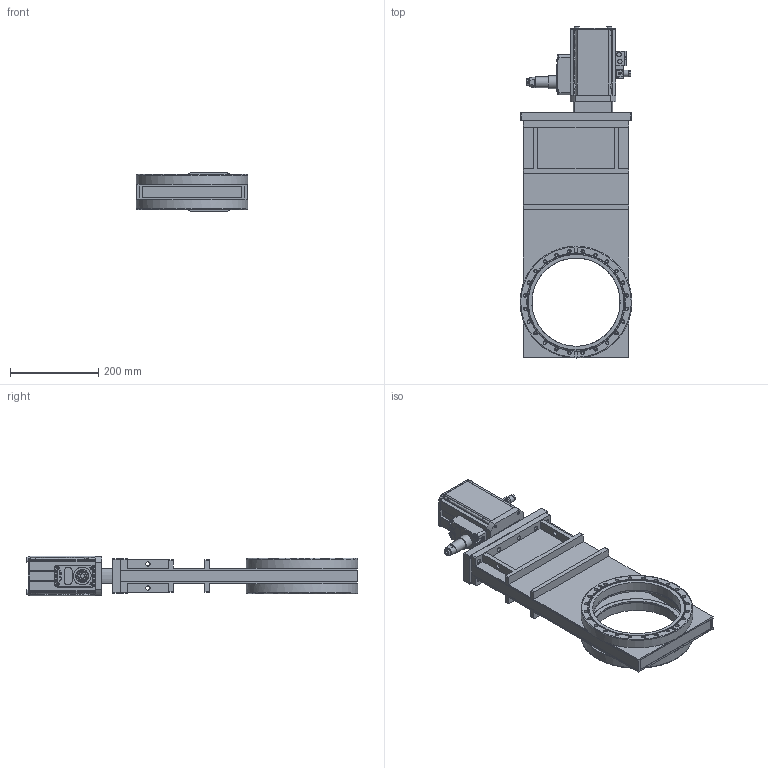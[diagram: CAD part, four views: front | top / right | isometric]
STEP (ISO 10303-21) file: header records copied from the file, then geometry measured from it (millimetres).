
FILE_DESCRIPTION((''),'2;1');
FILE_NAME('O:\MT\MT\Systeme\Cad\Datenexporte\www_vat_ch\207195.stp','2005-06-24T14:33:25',('User'),('SDRC'),'I-DEAS Master Series 9','UNIX','Yes');
FILE_SCHEMA(('CONFIG_CONTROL_DESIGN'));
Length unit declared in the file: millimetre
Assembly tree (31 placements, depth 0):
Bounding box: 253.2 x 752.7 x 90 mm (x, y, z)
Volume: 3398034.1 mm3; surface area: 963673.5 mm2
Topology: 28 solids, 28 shells, 1362 faces, 3332 edges, 2253 vertices
Faces by surface type: bspline 1362
Entity records: 40358 total; most frequent: CARTESIAN_POINT 21686, ORIENTED_EDGE 5160, EDGE_CURVE 2580, VERTEX_POINT 1683, EDGE_LOOP 1441, FACE_OUTER_BOUND 1122, ADVANCED_FACE 1122, QUASI_UNIFORM_CURVE 985
